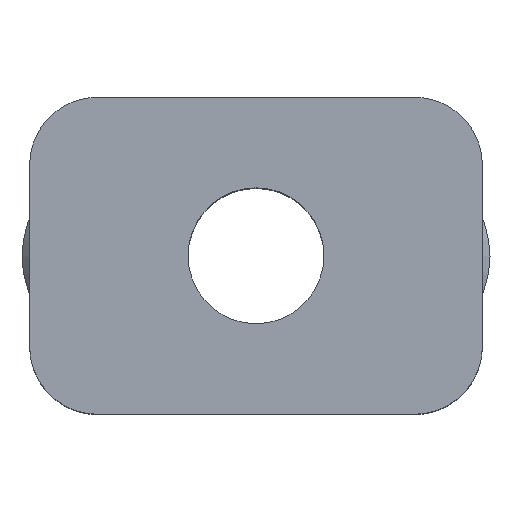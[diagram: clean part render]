
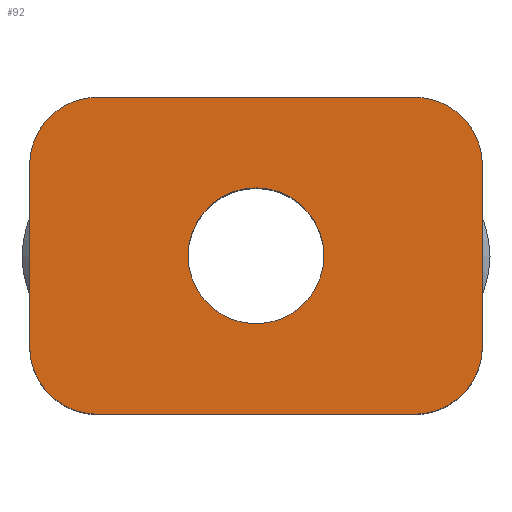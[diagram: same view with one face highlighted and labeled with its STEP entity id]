
A CAD part, top view. The second image highlights one B-rep face of the part: STEP entity #92.
In plain terms, the highlighted planar face has unit normal (0, 0, 1).
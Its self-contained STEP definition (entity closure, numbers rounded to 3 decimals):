
#92 = ADVANCED_FACE( '', ( #191, #192 ), #193, .T. );
#191 = FACE_OUTER_BOUND( '', #304, .T. );
#192 = FACE_BOUND( '', #305, .T. );
#193 = PLANE( '', #306 );
#304 = EDGE_LOOP( '', ( #486, #487, #488, #489, #490, #491, #492, #493 ) );
#305 = EDGE_LOOP( '', ( #494 ) );
#306 = AXIS2_PLACEMENT_3D( '', #495, #496, #497 );
#486 = ORIENTED_EDGE( '', *, *, #711, .T. );
#487 = ORIENTED_EDGE( '', *, *, #724, .T. );
#488 = ORIENTED_EDGE( '', *, *, #700, .T. );
#489 = ORIENTED_EDGE( '', *, *, #725, .T. );
#490 = ORIENTED_EDGE( '', *, *, #726, .T. );
#491 = ORIENTED_EDGE( '', *, *, #727, .T. );
#492 = ORIENTED_EDGE( '', *, *, #728, .T. );
#493 = ORIENTED_EDGE( '', *, *, #729, .T. );
#494 = ORIENTED_EDGE( '', *, *, #730, .F. );
#495 = CARTESIAN_POINT( '', ( -3.5, -2., 0. ) );
#496 = DIRECTION( '', ( 0., 0., 1. ) );
#497 = DIRECTION( '', ( 1., 0., 0. ) );
#700 = EDGE_CURVE( '', #837, #839, #841, .T. );
#711 = EDGE_CURVE( '', #857, #855, #858, .T. );
#724 = EDGE_CURVE( '', #855, #837, #875, .T. );
#725 = EDGE_CURVE( '', #839, #876, #877, .T. );
#726 = EDGE_CURVE( '', #876, #878, #879, .T. );
#727 = EDGE_CURVE( '', #878, #880, #881, .T. );
#728 = EDGE_CURVE( '', #880, #882, #883, .T. );
#729 = EDGE_CURVE( '', #882, #857, #884, .T. );
#730 = EDGE_CURVE( '', #885, #885, #886, .T. );
#837 = VERTEX_POINT( '', #1037 );
#839 = VERTEX_POINT( '', #1040 );
#841 = LINE( '', #1043, #1044 );
#855 = VERTEX_POINT( '', #1062 );
#857 = VERTEX_POINT( '', #1065 );
#858 = LINE( '', #1066, #1067 );
#875 = CIRCLE( '', #1092, 1.5 );
#876 = VERTEX_POINT( '', #1093 );
#877 = CIRCLE( '', #1094, 1.5 );
#878 = VERTEX_POINT( '', #1095 );
#879 = LINE( '', #1096, #1097 );
#880 = VERTEX_POINT( '', #1098 );
#881 = CIRCLE( '', #1099, 1.5 );
#882 = VERTEX_POINT( '', #1100 );
#883 = LINE( '', #1101, #1102 );
#884 = CIRCLE( '', #1103, 1.5 );
#885 = VERTEX_POINT( '', #1104 );
#886 = CIRCLE( '', #1105, 1.5 );
#1037 = CARTESIAN_POINT( '', ( -3.5, -3.5, 0. ) );
#1040 = CARTESIAN_POINT( '', ( 3.5, -3.5, 0. ) );
#1043 = CARTESIAN_POINT( '', ( -3.5, -3.5, 0. ) );
#1044 = VECTOR( '', #1258, 1000. );
#1062 = CARTESIAN_POINT( '', ( -5., -2., 0. ) );
#1065 = CARTESIAN_POINT( '', ( -5., 2., 0. ) );
#1066 = CARTESIAN_POINT( '', ( -5., 2., 0. ) );
#1067 = VECTOR( '', #1270, 1000. );
#1092 = AXIS2_PLACEMENT_3D( '', #1282, #1283, #1284 );
#1093 = CARTESIAN_POINT( '', ( 5., -2., 0. ) );
#1094 = AXIS2_PLACEMENT_3D( '', #1285, #1286, #1287 );
#1095 = CARTESIAN_POINT( '', ( 5., 2., 0. ) );
#1096 = CARTESIAN_POINT( '', ( 5., -2., 0. ) );
#1097 = VECTOR( '', #1288, 1000. );
#1098 = CARTESIAN_POINT( '', ( 3.5, 3.5, 0. ) );
#1099 = AXIS2_PLACEMENT_3D( '', #1289, #1290, #1291 );
#1100 = CARTESIAN_POINT( '', ( -3.5, 3.5, 0. ) );
#1101 = CARTESIAN_POINT( '', ( 3.5, 3.5, 0. ) );
#1102 = VECTOR( '', #1292, 1000. );
#1103 = AXIS2_PLACEMENT_3D( '', #1293, #1294, #1295 );
#1104 = CARTESIAN_POINT( '', ( 1.5, 0., 0. ) );
#1105 = AXIS2_PLACEMENT_3D( '', #1296, #1297, #1298 );
#1258 = DIRECTION( '', ( 1., 0., 0. ) );
#1270 = DIRECTION( '', ( 0., -1., 0. ) );
#1282 = CARTESIAN_POINT( '', ( -3.5, -2., 0. ) );
#1283 = DIRECTION( '', ( 0., 0., 1. ) );
#1284 = DIRECTION( '', ( 1., 0., 0. ) );
#1285 = CARTESIAN_POINT( '', ( 3.5, -2., 0. ) );
#1286 = DIRECTION( '', ( 0., 0., 1. ) );
#1287 = DIRECTION( '', ( -1., 0., 0. ) );
#1288 = DIRECTION( '', ( 0., 1., 0. ) );
#1289 = CARTESIAN_POINT( '', ( 3.5, 2., 0. ) );
#1290 = DIRECTION( '', ( 0., 0., 1. ) );
#1291 = DIRECTION( '', ( -1., 0., 0. ) );
#1292 = DIRECTION( '', ( -1., 0., 0. ) );
#1293 = CARTESIAN_POINT( '', ( -3.5, 2., 0. ) );
#1294 = DIRECTION( '', ( 0., 0., 1. ) );
#1295 = DIRECTION( '', ( 1., 0., 0. ) );
#1296 = CARTESIAN_POINT( '', ( 0., 0., 0. ) );
#1297 = DIRECTION( '', ( 0., 0., 1. ) );
#1298 = DIRECTION( '', ( 1., 0., 0. ) );
